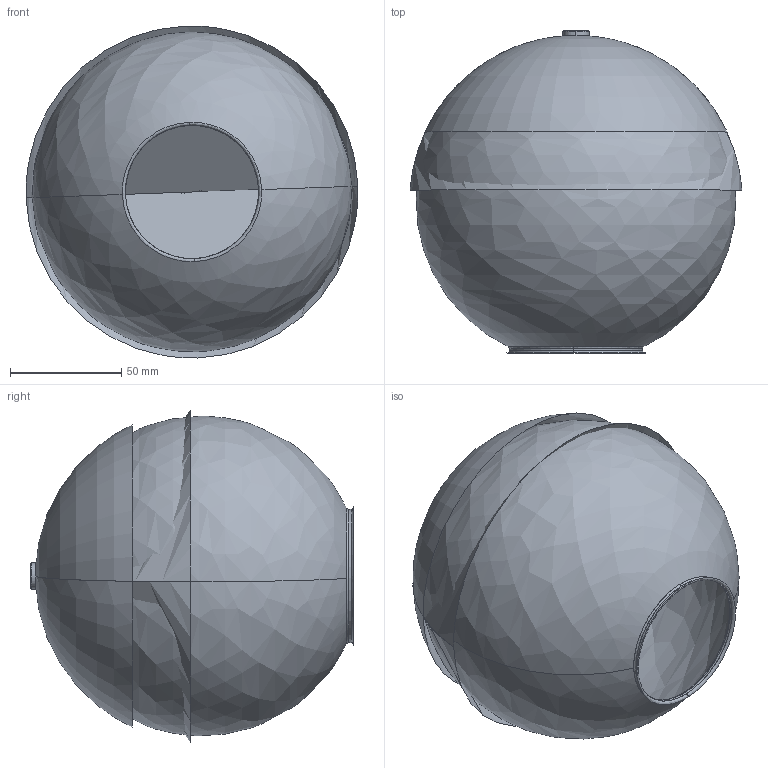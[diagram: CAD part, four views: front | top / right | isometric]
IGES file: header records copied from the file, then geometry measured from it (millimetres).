
Start section: SolidWorks IGES file using analytic representation for surfaces
Global section: file name: F:\GABRYSIA\MODELE 3D\_CAMELEON\KLOSZE I OPRAWY WWW\SPHERE_S_8531_WWW\SPHERE_S_8531.IGS; native system: SolidWorks 2017; preprocessor: SolidWorks 2017; author: Togambi; date: 200518.161549; units: millimetre
Bounding box: 149.54 x 145.26 x 149.54 mm (x, y, z)
Surface area: 118785.7 mm2 (no closed solid volume)
Topology: 0 solids, 0 shells, 162 faces, 2086 edges, 2086 vertices
Faces by surface type: bspline 86, revolution 76
